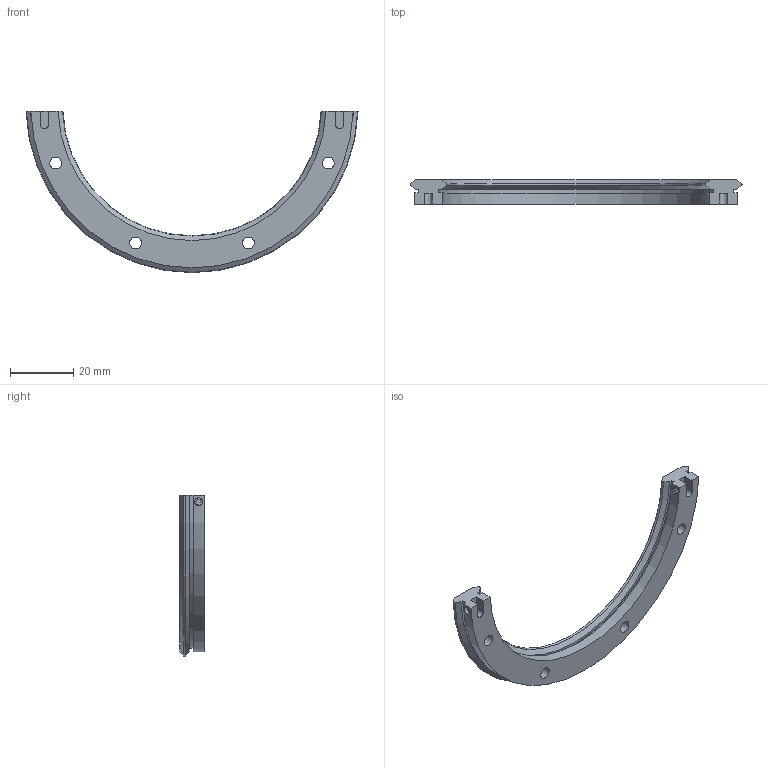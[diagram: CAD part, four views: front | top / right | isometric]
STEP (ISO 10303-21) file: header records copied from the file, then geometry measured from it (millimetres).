
FILE_DESCRIPTION( ( 'STEP AP203' ), '1' );
FILE_NAME( 'p:/temp/worker_34/temp/exporttempdir_5068_422_nfZ3Y/format_0/TR12 93 R180.stp', '2021-09-17T07:37:41', ( 'License CC BY-ND 4.0' ), ( 'CADENAS' ), ' ', 'PARTsolutions', ' ' );
FILE_SCHEMA( ( 'CONFIG_CONTROL_DESIGN' ) );
Length unit declared in the file: millimetre
Products named in the file (1): _TR12 93 R180
Bounding box: 104.58 x 7.7 x 50.81 mm (x, y, z)
Volume: 9110.1 mm3; surface area: 6260.5 mm2
Topology: 1 solids, 1 shells, 74 faces, 183 edges, 123 vertices
Faces by surface type: plane 50, cylinder 18, cone 4, torus 2
Full cylindrical faces by diameter (mm): 2.5 x4, 3.7 x4, 6 x4
Entity records: 2344 total; most frequent: CARTESIAN_POINT 572, DIRECTION 342, ORIENTED_EDGE 336, EDGE_CURVE 168, VERTEX_POINT 121, AXIS2_PLACEMENT_3D 115, LINE 112, VECTOR 112
